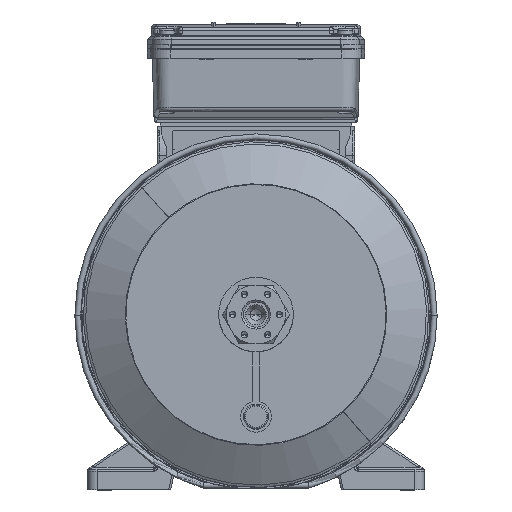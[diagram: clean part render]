
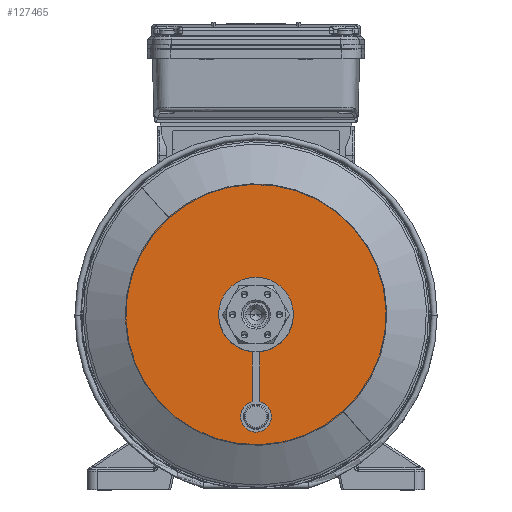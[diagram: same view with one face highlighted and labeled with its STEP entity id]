
A CAD part, top view. The second image highlights one B-rep face of the part: STEP entity #127465.
In plain terms, the highlighted planar face has unit normal (0, 0, 1) as drawn and (0, -1, 0) by its records, which use the part's own axes.
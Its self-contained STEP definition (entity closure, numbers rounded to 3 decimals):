
#386 = AXIS2_PLACEMENT_3D ( 'NONE', #138482, #33633, #80351 ) ;
#5502 = CARTESIAN_POINT ( 'NONE',  ( 0., 0., 13.5 ) ) ;
#7460 = CIRCLE ( 'NONE', #60493, 13.5 ) ;
#9058 = EDGE_CURVE ( 'NONE', #95761, #63879, #7460, .T. ) ;
#10362 = DIRECTION ( 'NONE',  ( 0., 0., 1. ) ) ;
#15719 = VERTEX_POINT ( 'NONE', #148365 ) ;
#18879 = AXIS2_PLACEMENT_3D ( 'NONE', #67782, #149390, #79506 ) ;
#25176 = CIRCLE ( 'NONE', #18879, 13.5 ) ;
#27730 = AXIS2_PLACEMENT_3D ( 'NONE', #133686, #63831, #145388 ) ;
#30351 = EDGE_CURVE ( 'NONE', #30424, #15719, #125922, .T. ) ;
#30424 = VERTEX_POINT ( 'NONE', #126958 ) ;
#33633 = DIRECTION ( 'NONE',  ( 0., -1., 0. ) ) ;
#37172 = ORIENTED_EDGE ( 'NONE', *, *, #117964, .T. ) ;
#37850 = ORIENTED_EDGE ( 'NONE', *, *, #112305, .F. ) ;
#48946 = FACE_BOUND ( 'NONE', #112563, .T. ) ;
#54191 = CARTESIAN_POINT ( 'NONE',  ( 0., 0., 0. ) ) ;
#58677 = EDGE_LOOP ( 'NONE', ( #37850, #134360 ) ) ;
#59561 = AXIS2_PLACEMENT_3D ( 'NONE', #54191, #135713, #65864 ) ;
#60493 = AXIS2_PLACEMENT_3D ( 'NONE', #149900, #80030, #10362 ) ;
#63831 = DIRECTION ( 'NONE',  ( 0., 1., 0. ) ) ;
#63879 = VERTEX_POINT ( 'NONE', #137357 ) ;
#65864 = DIRECTION ( 'NONE',  ( 0., 0., 1. ) ) ;
#67782 = CARTESIAN_POINT ( 'NONE',  ( 0., 0., 0. ) ) ;
#79506 = DIRECTION ( 'NONE',  ( 0., 0., 1. ) ) ;
#80030 = DIRECTION ( 'NONE',  ( 0., 1., 0. ) ) ;
#80351 = DIRECTION ( 'NONE',  ( 0., 0., -1. ) ) ;
#95761 = VERTEX_POINT ( 'NONE', #5502 ) ;
#112305 = EDGE_CURVE ( 'NONE', #15719, #30424, #114978, .T. ) ;
#112563 = EDGE_LOOP ( 'NONE', ( #127373, #37172 ) ) ;
#114978 = CIRCLE ( 'NONE', #59561, 67.5 ) ;
#117964 = EDGE_CURVE ( 'NONE', #63879, #95761, #25176, .T. ) ;
#125922 = CIRCLE ( 'NONE', #27730, 67.5 ) ;
#126958 = CARTESIAN_POINT ( 'NONE',  ( 0., 0., -67.5 ) ) ;
#127373 = ORIENTED_EDGE ( 'NONE', *, *, #9058, .T. ) ;
#127465 = ADVANCED_FACE ( 'NONE', ( #48946, #141893 ), #150218, .T. ) ;
#133686 = CARTESIAN_POINT ( 'NONE',  ( 0., 0., 0. ) ) ;
#134360 = ORIENTED_EDGE ( 'NONE', *, *, #30351, .F. ) ;
#135713 = DIRECTION ( 'NONE',  ( 0., 1., 0. ) ) ;
#137357 = CARTESIAN_POINT ( 'NONE',  ( 0., 0., -13.5 ) ) ;
#138482 = CARTESIAN_POINT ( 'NONE',  ( -13.5, 0., 0. ) ) ;
#141893 = FACE_OUTER_BOUND ( 'NONE', #58677, .T. ) ;
#145388 = DIRECTION ( 'NONE',  ( 0., 0., 1. ) ) ;
#148365 = CARTESIAN_POINT ( 'NONE',  ( 0., 0., 67.5 ) ) ;
#149390 = DIRECTION ( 'NONE',  ( 0., 1., 0. ) ) ;
#149900 = CARTESIAN_POINT ( 'NONE',  ( 0., 0., 0. ) ) ;
#150218 = PLANE ( 'NONE',  #386 ) ;
